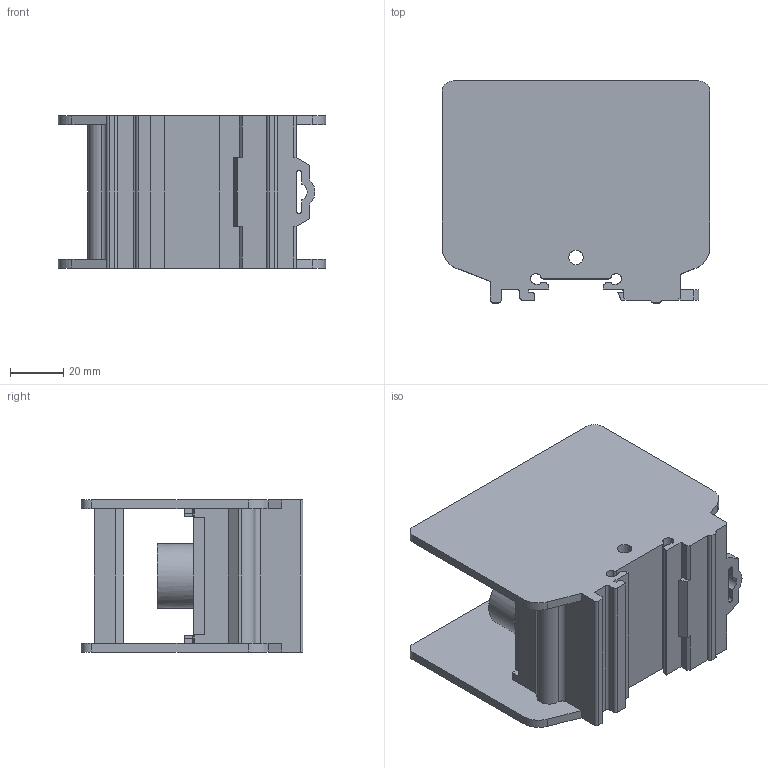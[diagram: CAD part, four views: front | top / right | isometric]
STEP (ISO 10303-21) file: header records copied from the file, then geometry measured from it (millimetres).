
FILE_DESCRIPTION(/* description */ (''),/* implementation_level */ '2;1');
FILE_NAME(/* name */ 'C:\Users\USERCADG105.FUJIDK\Desktop\2311220(TX-200F)HP 3D.stp',/* time_stamp */ '2024-12-06T12:11:15+09:00',/* author */ ('usercadg105'),/* organization */ (''),/* preprocessor_version */ 'ST-DEVELOPER v19',/* originating_system */ 'Autodesk Inventor 2023',/* authorisation */ '');
FILE_SCHEMA (('CONFIG_CONTROL_DESIGN'));
Length unit declared in the file: millimetre
Products named in the file (1): 23217-Δ5
Bounding box: 100 x 83 x 57 mm (x, y, z)
Volume: 196348.5 mm3; surface area: 48670.1 mm2
Topology: 1 solids, 1 shells, 160 faces, 449 edges, 296 vertices
Faces by surface type: plane 126, cylinder 34
Full cylindrical faces by diameter (mm): 5.4 x1, 24 x2
Entity records: 5160 total; most frequent: CARTESIAN_POINT 906, ORIENTED_EDGE 898, DIRECTION 843, EDGE_CURVE 449, LINE 377, VECTOR 377, VERTEX_POINT 296, AXIS2_PLACEMENT_3D 233
